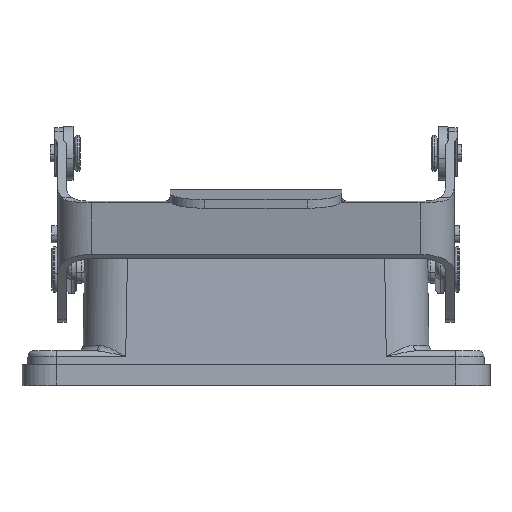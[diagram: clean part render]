
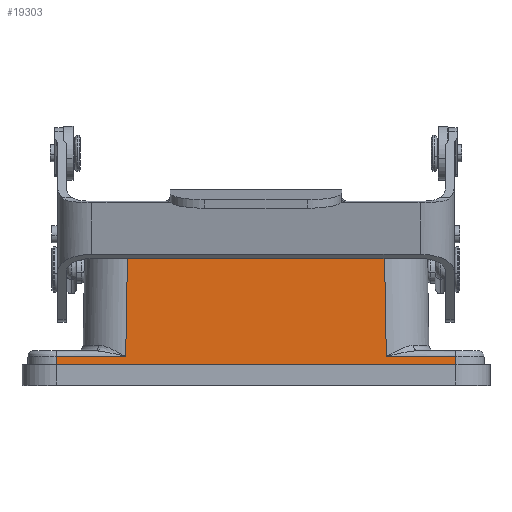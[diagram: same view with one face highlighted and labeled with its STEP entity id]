
A CAD part, top view. The second image highlights one B-rep face of the part: STEP entity #19303.
In plain terms, the highlighted planar face has unit normal (0, 0.018, 1).
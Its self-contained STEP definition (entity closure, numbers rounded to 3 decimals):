
#981 = DIRECTION ( 'NONE',  ( -0.017, -1., 0.017 ) ) ;
#997 = ORIENTED_EDGE ( 'NONE', *, *, #18395, .F. ) ;
#1333 = VECTOR ( 'NONE', #17809, 1000. ) ;
#1516 = VECTOR ( 'NONE', #1740, 1000. ) ;
#1740 = DIRECTION ( 'NONE',  ( 1., 0., 0. ) ) ;
#1824 = VERTEX_POINT ( 'NONE', #9628 ) ;
#2344 = VECTOR ( 'NONE', #14664, 1000. ) ;
#2985 = FACE_OUTER_BOUND ( 'NONE', #15167, .T. ) ;
#3040 = CARTESIAN_POINT ( 'NONE',  ( -35.001, 0., 21.884 ) ) ;
#3715 = CARTESIAN_POINT ( 'NONE',  ( -22.832, 3.017, 21.831 ) ) ;
#3791 = VERTEX_POINT ( 'NONE', #14447 ) ;
#4189 = VECTOR ( 'NONE', #981, 1000. ) ;
#4323 = VERTEX_POINT ( 'NONE', #9765 ) ;
#4621 = DIRECTION ( 'NONE',  ( 0., 0.017, 1. ) ) ;
#4739 = EDGE_CURVE ( 'NONE', #4323, #10411, #12097, .T. ) ;
#4879 = DIRECTION ( 'NONE',  ( -0.017, -1., 0.017 ) ) ;
#4939 = DIRECTION ( 'NONE',  ( 0.017, -1., 0.017 ) ) ;
#5298 = DIRECTION ( 'NONE',  ( -0.017, 1., -0.017 ) ) ;
#5413 = DIRECTION ( 'NONE',  ( -1., 0., 0. ) ) ;
#7343 = ORIENTED_EDGE ( 'NONE', *, *, #4739, .F. ) ;
#7821 = ORIENTED_EDGE ( 'NONE', *, *, #16293, .T. ) ;
#8240 = CARTESIAN_POINT ( 'NONE',  ( 22.497, 22.238, 21.496 ) ) ;
#8792 = ORIENTED_EDGE ( 'NONE', *, *, #17430, .T. ) ;
#8951 = VECTOR ( 'NONE', #4879, 1000. ) ;
#8992 = CARTESIAN_POINT ( 'NONE',  ( -42.121, 3.017, 21.831 ) ) ;
#9628 = CARTESIAN_POINT ( 'NONE',  ( 35.001, 0., 21.884 ) ) ;
#9765 = CARTESIAN_POINT ( 'NONE',  ( 22.501, 22., 21.5 ) ) ;
#9906 = CARTESIAN_POINT ( 'NONE',  ( -42.121, 22., 21.5 ) ) ;
#9966 = VECTOR ( 'NONE', #5298, 1000. ) ;
#10411 = VERTEX_POINT ( 'NONE', #12539 ) ;
#10723 = EDGE_CURVE ( 'NONE', #21519, #1824, #19216, .T. ) ;
#11222 = LINE ( 'NONE', #19610, #4189 ) ;
#11324 = DIRECTION ( 'NONE',  ( 0., -1., 0.017 ) ) ;
#11346 = ORIENTED_EDGE ( 'NONE', *, *, #17759, .T. ) ;
#11716 = ORIENTED_EDGE ( 'NONE', *, *, #17405, .T. ) ;
#12097 = LINE ( 'NONE', #8240, #16022 ) ;
#12539 = CARTESIAN_POINT ( 'NONE',  ( 22.832, 3.017, 21.831 ) ) ;
#12642 = VERTEX_POINT ( 'NONE', #21075 ) ;
#13226 = PLANE ( 'NONE',  #18520 ) ;
#13305 = CARTESIAN_POINT ( 'NONE',  ( 0., 0., 21.884 ) ) ;
#13311 = VECTOR ( 'NONE', #5413, 1000. ) ;
#13343 = CARTESIAN_POINT ( 'NONE',  ( -34.948, 3.017, 21.831 ) ) ;
#14377 = LINE ( 'NONE', #19941, #9966 ) ;
#14447 = CARTESIAN_POINT ( 'NONE',  ( -22.501, 22., 21.5 ) ) ;
#14664 = DIRECTION ( 'NONE',  ( 1., 0., 0. ) ) ;
#14791 = ORIENTED_EDGE ( 'NONE', *, *, #10723, .T. ) ;
#15167 = EDGE_LOOP ( 'NONE', ( #20892, #11716, #7343, #997, #8792, #11346, #7821, #14791 ) ) ;
#15173 = CARTESIAN_POINT ( 'NONE',  ( 34.948, 3.017, 21.831 ) ) ;
#16022 = VECTOR ( 'NONE', #4939, 1000. ) ;
#16136 = CARTESIAN_POINT ( 'NONE',  ( -42.121, 3.017, 21.831 ) ) ;
#16293 = EDGE_CURVE ( 'NONE', #12642, #21519, #17788, .T. ) ;
#16455 = VERTEX_POINT ( 'NONE', #15173 ) ;
#16714 = LINE ( 'NONE', #8992, #13311 ) ;
#16818 = EDGE_CURVE ( 'NONE', #1824, #16455, #14377, .T. ) ;
#17405 = EDGE_CURVE ( 'NONE', #16455, #10411, #19825, .T. ) ;
#17430 = EDGE_CURVE ( 'NONE', #3791, #18523, #11222, .T. ) ;
#17759 = EDGE_CURVE ( 'NONE', #18523, #12642, #16714, .T. ) ;
#17788 = LINE ( 'NONE', #13343, #8951 ) ;
#17809 = DIRECTION ( 'NONE',  ( -1., 0., 0. ) ) ;
#18395 = EDGE_CURVE ( 'NONE', #3791, #4323, #21112, .T. ) ;
#18520 = AXIS2_PLACEMENT_3D ( 'NONE', #9906, #4621, #11324 ) ;
#18523 = VERTEX_POINT ( 'NONE', #3715 ) ;
#19216 = LINE ( 'NONE', #13305, #1516 ) ;
#19303 = ADVANCED_FACE ( 'NONE', ( #2985 ), #13226, .T. ) ;
#19610 = CARTESIAN_POINT ( 'NONE',  ( -22.501, 22., 21.5 ) ) ;
#19825 = LINE ( 'NONE', #16136, #1333 ) ;
#19941 = CARTESIAN_POINT ( 'NONE',  ( 35.001, 0., 21.884 ) ) ;
#20892 = ORIENTED_EDGE ( 'NONE', *, *, #16818, .T. ) ;
#21075 = CARTESIAN_POINT ( 'NONE',  ( -34.948, 3.017, 21.831 ) ) ;
#21112 = LINE ( 'NONE', #21374, #2344 ) ;
#21374 = CARTESIAN_POINT ( 'NONE',  ( 0., 22., 21.5 ) ) ;
#21519 = VERTEX_POINT ( 'NONE', #3040 ) ;
